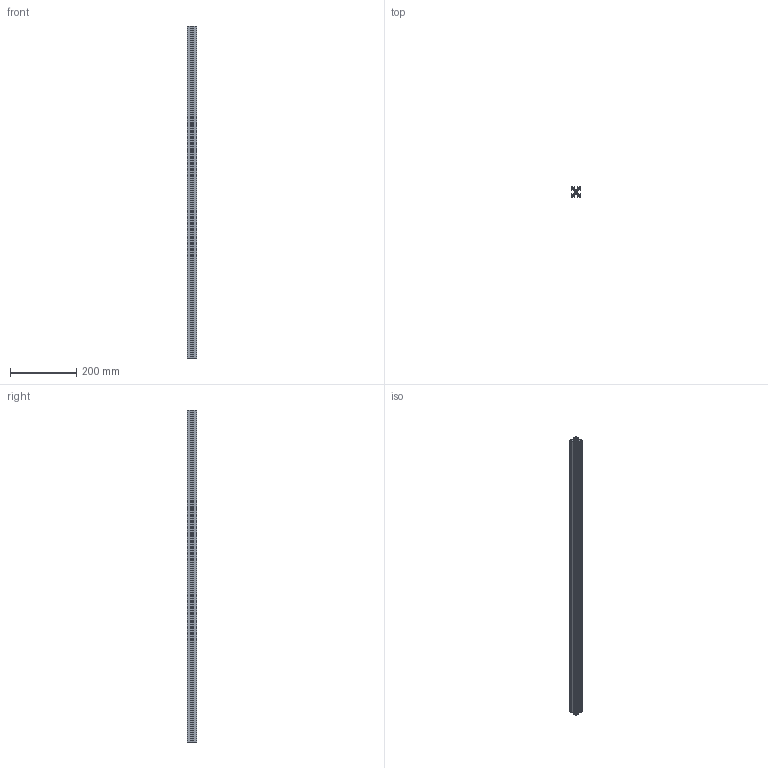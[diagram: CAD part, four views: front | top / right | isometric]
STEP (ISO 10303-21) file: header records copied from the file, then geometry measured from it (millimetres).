
FILE_DESCRIPTION (( 'STEP AP214' ), '1' );
FILE_NAME ('30õ30SL.STEP', '2021-09-02T13:41:08', ( '' ), ( '' ), 'SwSTEP 2.0', 'SolidWorks 2020', '' );
FILE_SCHEMA (( 'AUTOMOTIVE_DESIGN' ));
Length unit declared in the file: millimetre
Products named in the file (1): 30õ30SL
Bounding box: 30 x 30 x 1000 mm (x, y, z)
Volume: 226064.6 mm3; surface area: 372607.2 mm2
Topology: 1 solids, 1 shells, 339 faces, 1011 edges, 674 vertices
Faces by surface type: cylinder 201, plane 138
Entity records: 11601 total; most frequent: DIRECTION 2093, CARTESIAN_POINT 2025, ORIENTED_EDGE 2022, EDGE_CURVE 1011, AXIS2_PLACEMENT_3D 742, VERTEX_POINT 674, LINE 609, VECTOR 609
